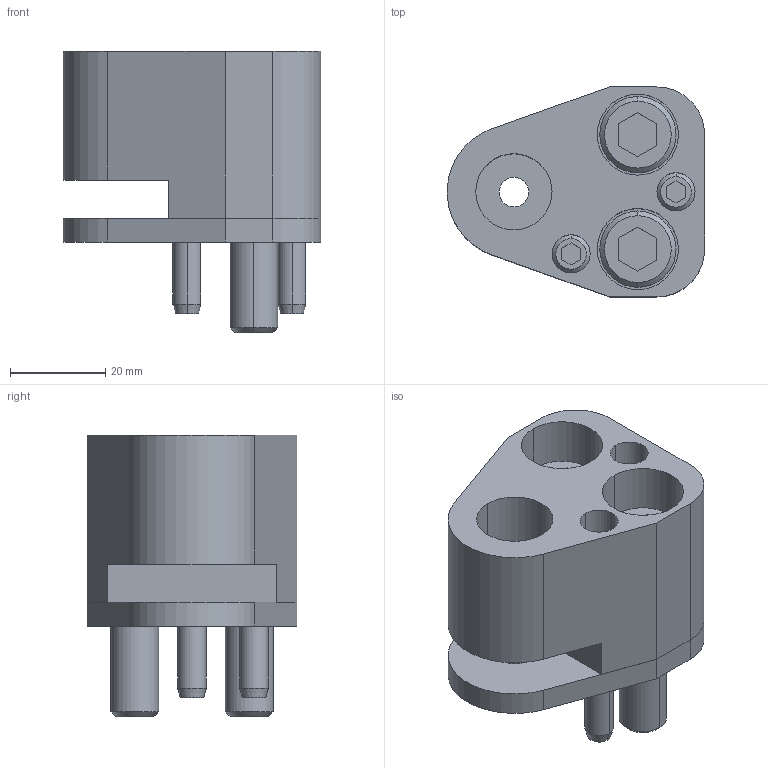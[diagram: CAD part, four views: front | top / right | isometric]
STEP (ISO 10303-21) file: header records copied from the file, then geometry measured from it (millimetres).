
FILE_DESCRIPTION(/* description */ (''),/* implementation_level */ '2;1');
FILE_NAME(/* name */ '3d_hap-fp16_02774_r00.stp',/* time_stamp */ '2011-01-10T14:14:58+09:00',/* author */ ('MISUMI'),/* organization */ (''),/* preprocessor_version */ 'ST-DEVELOPER v11',/* originating_system */ 'UGS - NX 5.0',/* authorisation */ '');
FILE_SCHEMA (('CONFIG_CONTROL_DESIGN'));
Length unit declared in the file: millimetre
Products named in the file (1): 3d_hap-fp16_02774_r00
Bounding box: 53.95 x 44 x 59 mm (x, y, z)
Volume: 60331.2 mm3; surface area: 25644.5 mm2
Topology: 8 solids, 8 shells, 156 faces, 356 edges, 229 vertices
Faces by surface type: plane 70, cylinder 60, cone 26
Entity records: 4562 total; most frequent: DIRECTION 812, CARTESIAN_POINT 795, ORIENTED_EDGE 712, EDGE_CURVE 356, AXIS2_PLACEMENT_3D 304, VERTEX_POINT 229, LINE 204, VECTOR 204
